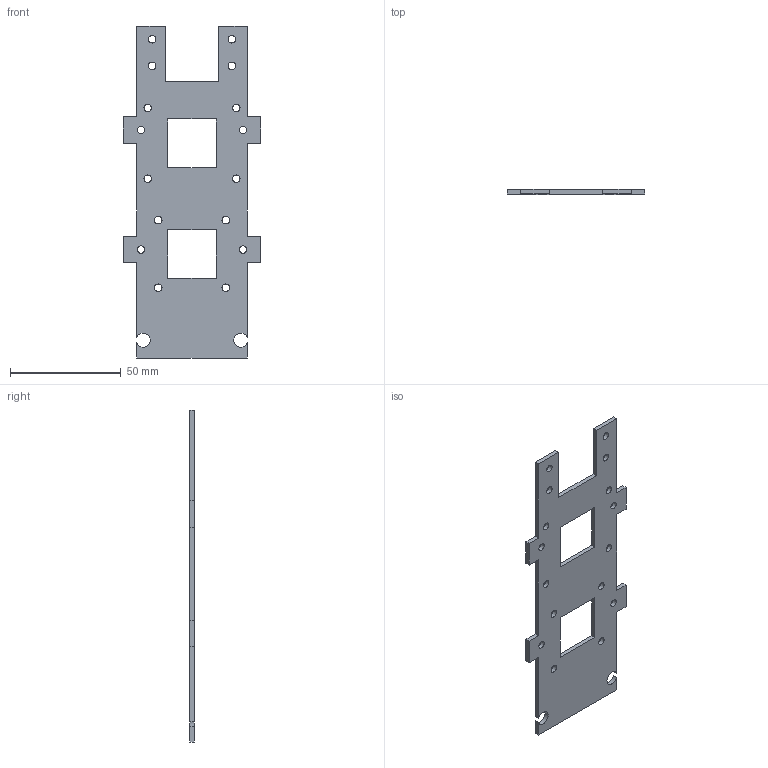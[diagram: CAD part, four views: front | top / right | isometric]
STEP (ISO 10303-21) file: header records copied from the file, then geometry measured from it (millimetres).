
FILE_DESCRIPTION(('Open CASCADE Model'),'2;1');
FILE_NAME('Open CASCADE Shape Model','2026-09-11T00:16:40',('Author'),( 'Open CASCADE'),'Open CASCADE STEP processor 7.9','Open CASCADE 7.9' ,'Unknown');
FILE_SCHEMA(('AUTOMOTIVE_DESIGN { 1 0 10303 214 1 1 1 1 }'));
Length unit declared in the file: millimetre
Products named in the file (1): Open CASCADE STEP translator 7.9 4
Bounding box: 62 x 2 x 150 mm (x, y, z)
Volume: 12022 mm3; surface area: 13774.2 mm2
Topology: 1 solids, 1 shells, 54 faces, 156 edges, 104 vertices
Faces by surface type: plane 36, cylinder 18
Full cylindrical faces by diameter (mm): 3.4 x16
Entity records: 3834 total; most frequent: CARTESIAN_POINT 679, DIRECTION 562, LINE 344, VECTOR 344, ORIENTED_EDGE 312, PCURVE 312, DEFINITIONAL_REPRESENTATION 312, EDGE_CURVE 156
